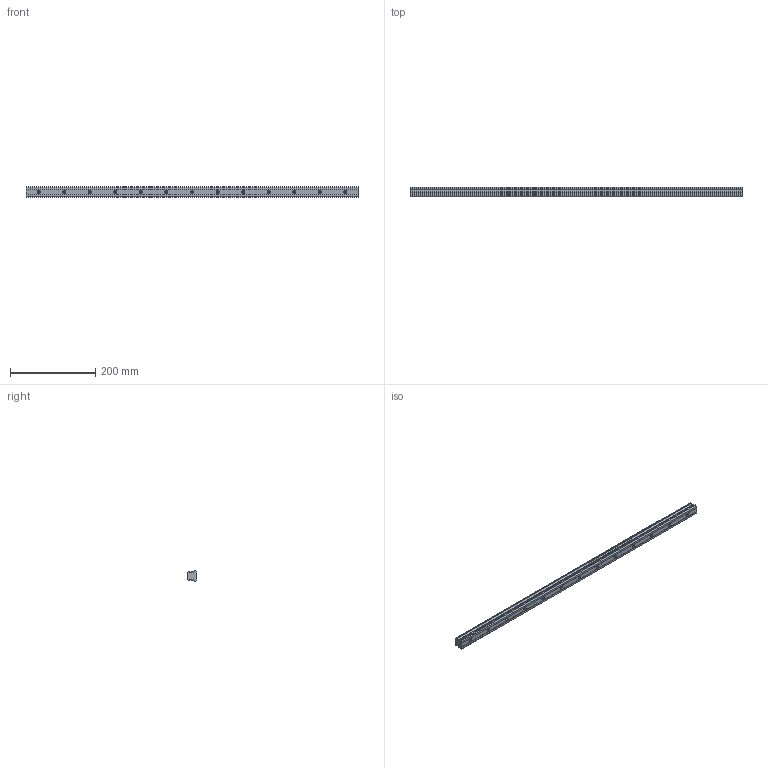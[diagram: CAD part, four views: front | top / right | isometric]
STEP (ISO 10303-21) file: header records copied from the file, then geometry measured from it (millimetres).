
FILE_DESCRIPTION (( 'STEP AP203' ), '1' );
FILE_NAME ('L1018.25R-0780.step', '2023-08-06T10:34:24', ( '' ), ( '' ), 'SwSTEP 2.0', 'SolidWorks 2019', '' );
FILE_SCHEMA (( 'CONFIG_CONTROL_DESIGN' ));
Length unit declared in the file: millimetre
Products named in the file (1): L1018.25R-0780
Bounding box: 780 x 21.8 x 25 mm (x, y, z)
Volume: 324392.7 mm3; surface area: 78299 mm2
Topology: 1 solids, 1 shells, 146 faces, 341 edges, 197 vertices
Faces by surface type: cylinder 55, cone 52, plane 39
Entity records: 4040 total; most frequent: DIRECTION 745, CARTESIAN_POINT 659, ORIENTED_EDGE 630, EDGE_CURVE 315, AXIS2_PLACEMENT_3D 283, VERTEX_POINT 197, LINE 179, VECTOR 179
